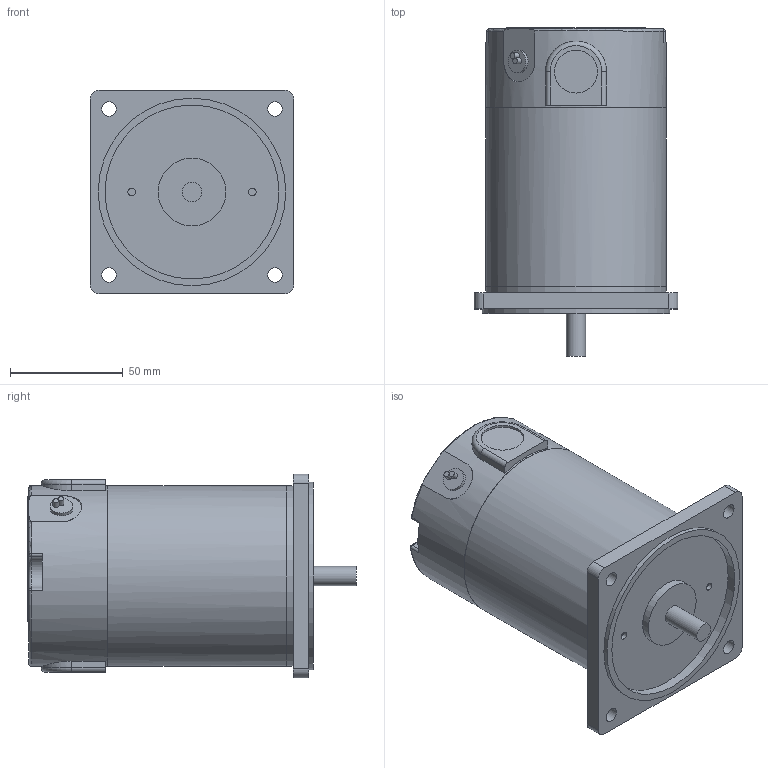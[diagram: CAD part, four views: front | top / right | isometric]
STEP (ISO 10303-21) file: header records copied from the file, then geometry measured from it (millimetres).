
FILE_DESCRIPTION((''),'2;1');
FILE_NAME('E:\2공장-도면\3D\표준형 3D(민규)\step file\DC모터\K9DG40Nㅁ.stp','2014-11-24T17:14:52',('AHN'),(''),'Autodesk Inventor 2012','Autodesk Inventor 2012','');
FILE_SCHEMA(('CONFIG_CONTROL_DESIGN'));
Length unit declared in the file: millimetre
Products named in the file (1): K9DG40N
Bounding box: 90 x 145.5 x 90 mm (x, y, z)
Volume: 641155.5 mm3; surface area: 52147.6 mm2
Topology: 1 solids, 1 shells, 127 faces, 286 edges, 182 vertices
Faces by surface type: plane 61, cylinder 55, torus 7, sphere 4
Full cylindrical faces by diameter (mm): 2.6 x2, 3.4 x2, 6.5 x4, 8.5 x1, 10 x1, 19 x2, 30 x2, 77 x1, 80 x2, 80.1 x1, 83 x1
Entity records: 3570 total; most frequent: CARTESIAN_POINT 669, DIRECTION 640, ORIENTED_EDGE 530, EDGE_CURVE 265, AXIS2_PLACEMENT_3D 252, VERTEX_POINT 179, EDGE_LOOP 175, VECTOR 136
